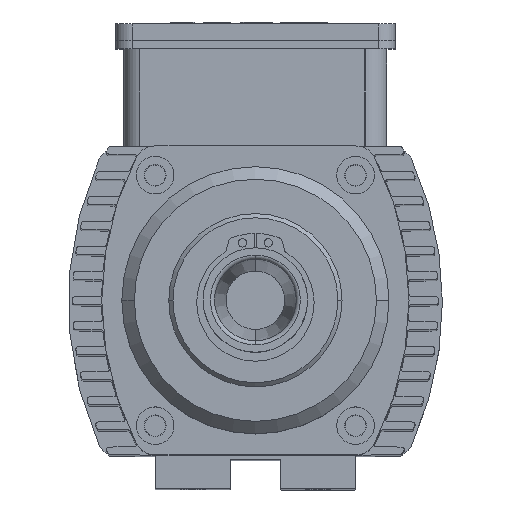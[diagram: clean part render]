
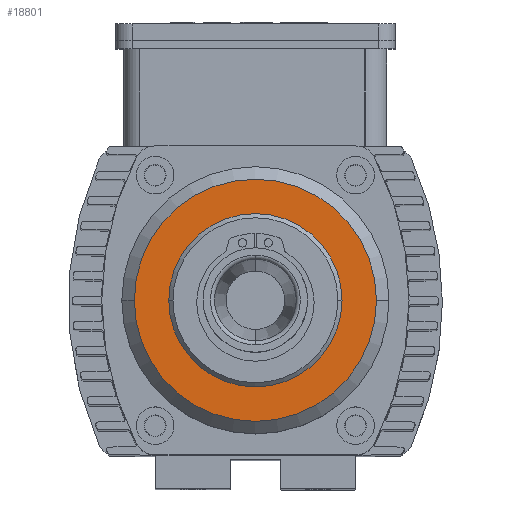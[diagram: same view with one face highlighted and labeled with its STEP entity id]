
A CAD part, top view. The second image highlights one B-rep face of the part: STEP entity #18801.
In plain terms, the highlighted planar face has unit normal (0, 0, 1).
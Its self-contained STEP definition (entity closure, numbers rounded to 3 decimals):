
#1093 = DIRECTION ( 'NONE',  ( 1., 0., 0. ) ) ;
#3335 = AXIS2_PLACEMENT_3D ( 'NONE', #24374, #21777, #19085 ) ;
#3740 = DIRECTION ( 'NONE',  ( 0., 0., 1. ) ) ;
#4452 = PLANE ( 'NONE',  #24460 ) ;
#5876 = FACE_OUTER_BOUND ( 'NONE', #9306, .T. ) ;
#6425 = CARTESIAN_POINT ( 'NONE',  ( -1., 0., 18. ) ) ;
#7091 = CIRCLE ( 'NONE', #3335, 29. ) ;
#7448 = CARTESIAN_POINT ( 'NONE',  ( 28., 0., 18. ) ) ;
#9071 = AXIS2_PLACEMENT_3D ( 'NONE', #6425, #3740, #1093 ) ;
#9306 = EDGE_LOOP ( 'NONE', ( #18704, #23036 ) ) ;
#11006 = VERTEX_POINT ( 'NONE', #7448 ) ;
#11707 = CIRCLE ( 'NONE', #9071, 29. ) ;
#12351 = VERTEX_POINT ( 'NONE', #13326 ) ;
#13326 = CARTESIAN_POINT ( 'NONE',  ( -30., 0., 18. ) ) ;
#13645 = EDGE_CURVE ( 'NONE', #11006, #12351, #11707, .T. ) ;
#18704 = ORIENTED_EDGE ( 'NONE', *, *, #21360, .T. ) ;
#18801 = ADVANCED_FACE ( 'NONE', ( #5876 ), #4452, .T. ) ;
#19085 = DIRECTION ( 'NONE',  ( 1., 0., 0. ) ) ;
#19855 = DIRECTION ( 'NONE',  ( 1., 0., 0. ) ) ;
#21360 = EDGE_CURVE ( 'NONE', #12351, #11006, #7091, .T. ) ;
#21777 = DIRECTION ( 'NONE',  ( 0., 0., 1. ) ) ;
#22496 = DIRECTION ( 'NONE',  ( 0., 0., 1. ) ) ;
#23036 = ORIENTED_EDGE ( 'NONE', *, *, #13645, .T. ) ;
#24374 = CARTESIAN_POINT ( 'NONE',  ( -1., 0., 18. ) ) ;
#24460 = AXIS2_PLACEMENT_3D ( 'NONE', #25102, #22496, #19855 ) ;
#25102 = CARTESIAN_POINT ( 'NONE',  ( 0., 0., 18. ) ) ;
